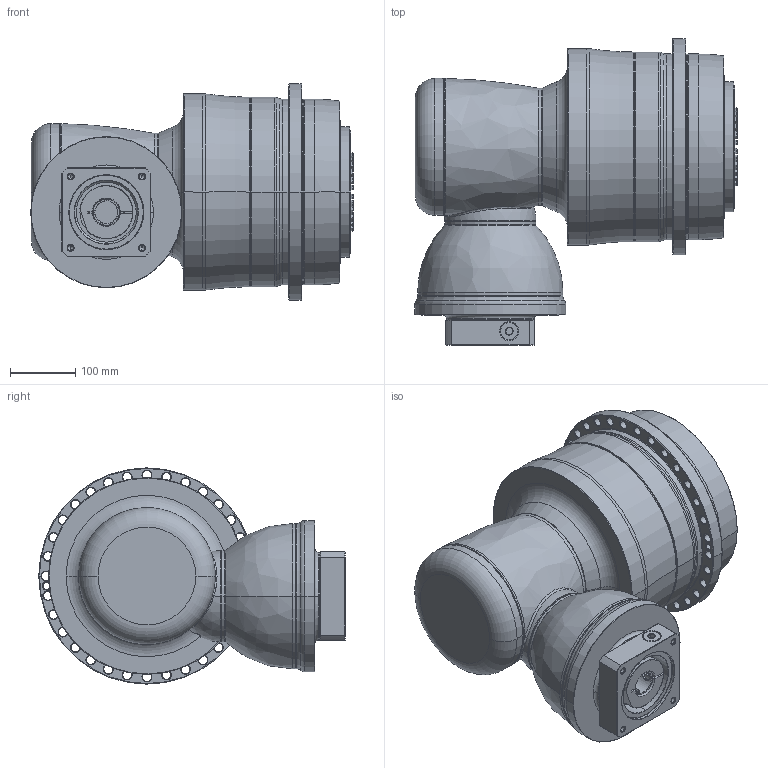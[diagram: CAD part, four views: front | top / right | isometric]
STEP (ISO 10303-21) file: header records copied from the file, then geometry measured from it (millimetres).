
FILE_DESCRIPTION((''),'2;1');
FILE_NAME('APCK285_3ST_35-P0409800201_ASM','2018-05-14T',('d01226'),(''),'PRO/ENGINEER BY PARAMETRIC TECHNOLOGY CORPORATION, 2008410','PRO/ENGINEER BY PARAMETRIC TECHNOLOGY CORPORATION, 2008410','');
FILE_SCHEMA(('CONFIG_CONTROL_DESIGN'));
Length unit declared in the file: millimetre
Products named in the file (13): P1008600002; P1832810001; P0278801003; P03598G0103; P1211800001; P1315600001; P1007601001; P1318610101; P0409800201; P0503800012; P0912601001; 21711422019; APCK285_3ST_35-P0409800201_ASM
Assembly tree (12 placements, depth 2):
  APCK285_3ST_35-P0409800201_ASM
    P1008600002
    P1832810001
    P0278801003
    P03598G0103
    P1211800001
    P1315600001
    P1007601001
    P1318610101
    P0409800201
    P0503800012
    P0912601001
    21711422019
Bounding box: 495.1 x 470.5 x 332 mm (x, y, z)
Volume: 29523854 mm3; surface area: 1623563.9 mm2
Topology: 13 solids, 25 shells, 857 faces, 2055 edges, 1256 vertices
Faces by surface type: cone 286, cylinder 241, plane 155, torus 140, bspline 33, sphere 2
Entity records: 32234 total; most frequent: CARTESIAN_POINT 11790, DIRECTION 4565, ORIENTED_EDGE 4032, EDGE_CURVE 2041, AXIS2_PLACEMENT_3D 2014, VERTEX_POINT 1256, CIRCLE 1153, EDGE_LOOP 987
